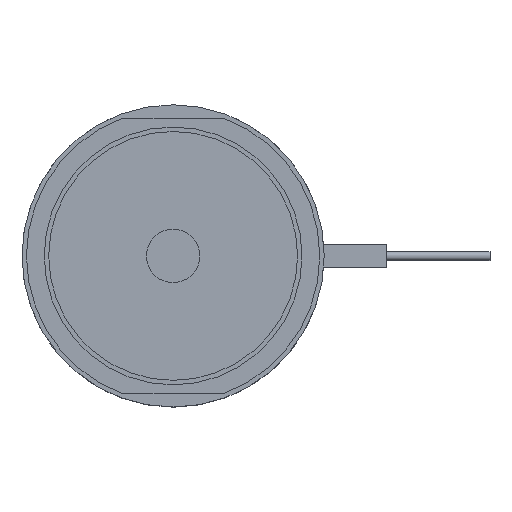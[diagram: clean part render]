
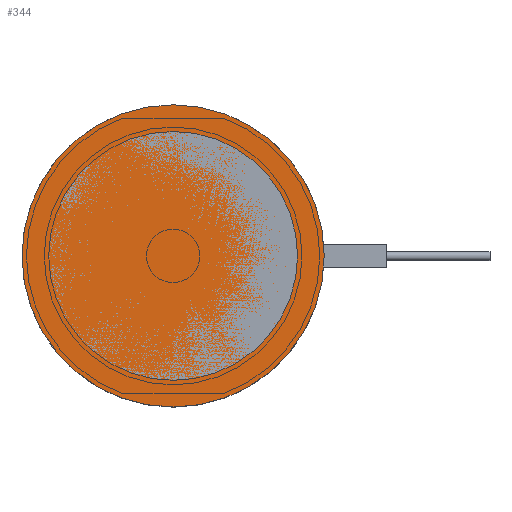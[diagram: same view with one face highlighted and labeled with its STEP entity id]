
A CAD part, top view. The second image highlights one B-rep face of the part: STEP entity #344.
In plain terms, the highlighted planar face has unit normal (0, 0, 1).
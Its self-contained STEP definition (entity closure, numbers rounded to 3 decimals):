
#344=ADVANCED_FACE('',(#454),#414,.F.);
#414=PLANE('',#1205);
#454=FACE_OUTER_BOUND('',#543,.T.);
#543=EDGE_LOOP('',(#697));
#697=ORIENTED_EDGE('',*,*,#996,.F.);
#896=VERTEX_POINT('',#1780);
#996=EDGE_CURVE('',#896,#896,#1101,.T.);
#1101=CIRCLE('',#1204,17.);
#1204=AXIS2_PLACEMENT_3D('',#1779,#1425,#1426);
#1205=AXIS2_PLACEMENT_3D('',#1781,#1427,#1428);
#1425=DIRECTION('',(0.,0.,-1.));
#1426=DIRECTION('',(-1.,0.,0.));
#1427=DIRECTION('',(0.,0.,-1.));
#1428=DIRECTION('',(-1.,0.,0.));
#1779=CARTESIAN_POINT('',(0.,0.,0.));
#1780=CARTESIAN_POINT('',(-17.,0.,0.));
#1781=CARTESIAN_POINT('',(0.,0.,0.));
